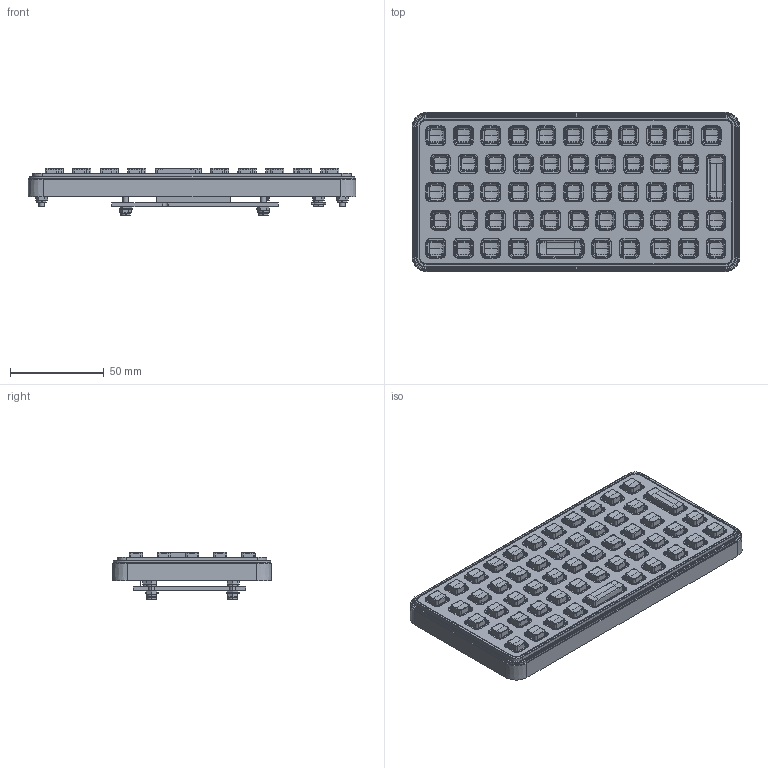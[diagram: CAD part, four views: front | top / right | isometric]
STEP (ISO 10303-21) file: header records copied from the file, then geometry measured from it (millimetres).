
FILE_DESCRIPTION (( 'STEP AP214' ), '1' );
FILE_NAME ('1200 KEYBOARD.STEP', '2014-04-25T10:44:43', ( '' ), ( '' ), 'SwSTEP 2.0', 'SolidWorks 2013', '' );
FILE_SCHEMA (( 'AUTOMOTIVE_DESIGN' ));
Length unit declared in the file: millimetre
Products named in the file (1): 1200 KEYBOARD
Bounding box: 175 x 85 x 25.22 mm (x, y, z)
Surface area: 80776.4 mm2 (no closed solid volume)
Topology: 0 solids, 91 shells, 3043 faces, 9269 edges, 6259 vertices
Faces by surface type: torus 887, plane 792, cone 547, cylinder 497, bspline 212, sphere 108
Entity records: 145546 total; most frequent: CARTESIAN_POINT 28618, DIRECTION 19110, ORIENTED_EDGE 15392, EDGE_CURVE 9269, AXIS2_PLACEMENT_3D 7645, VERTEX_POINT 6259, CIRCLE 4813, VECTOR 3820
